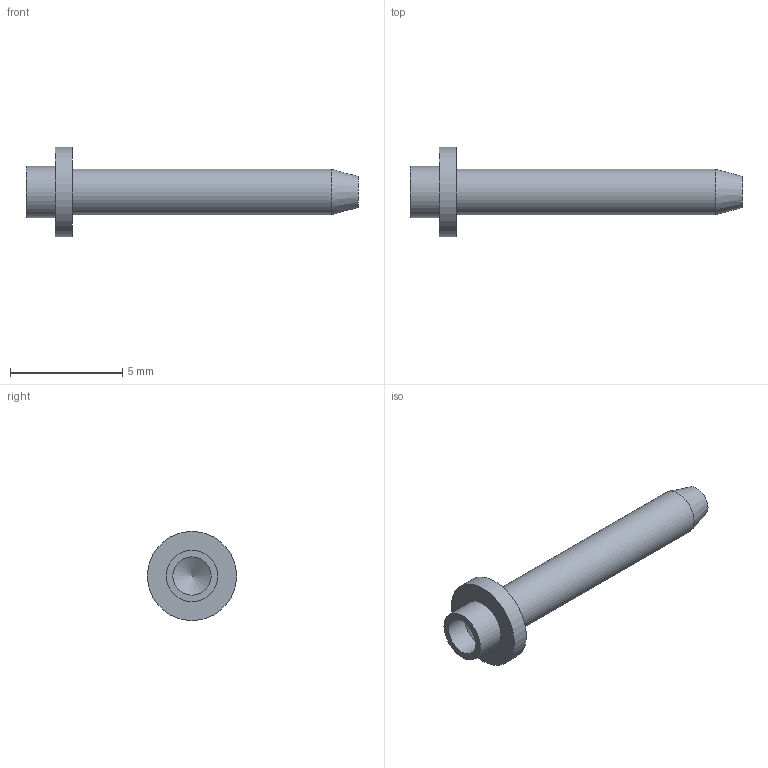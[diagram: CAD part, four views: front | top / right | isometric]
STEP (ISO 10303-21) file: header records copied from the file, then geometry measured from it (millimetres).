
FILE_DESCRIPTION(/* description */ (''),/* implementation_level */ '2;1');
FILE_NAME(/* name */ 'Z:\STEP folder\460152401.ipt.stp',/* time_stamp */ '2016-12-21T13:03:50+00:00',/* author */ ('Paul Karlsons'),/* organization */ (''),/* preprocessor_version */ 'ST-DEVELOPER v15.2',/* originating_system */ 'Autodesk Inventor 2014',/* authorisation */ '');
FILE_SCHEMA (('AUTOMOTIVE_DESIGN { 1 0 10303 214 3 1 1 }'));
Length unit declared in the file: millimetre
Products named in the file (1): 460152401
Bounding box: 14.76 x 3.96 x 3.96 mm (x, y, z)
Volume: 52.1 mm3; surface area: 127.6 mm2
Topology: 1 solids, 1 shells, 10 faces, 16 edges, 10 vertices
Faces by surface type: cylinder 4, plane 4, cone 2
Full cylindrical faces by diameter (mm): 1.7 x1, 2.032 x1, 2.286 x1, 3.96 x1
Entity records: 215 total; most frequent: DIRECTION 40, CARTESIAN_POINT 29, AXIS2_PLACEMENT_3D 20, EDGE_LOOP 18, ORIENTED_EDGE 18, FACE_BOUND 10, ADVANCED_FACE 10, CIRCLE 9
